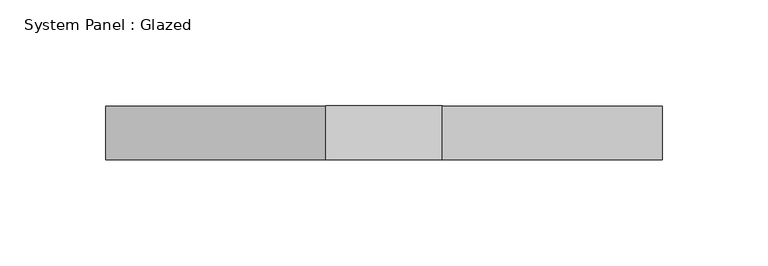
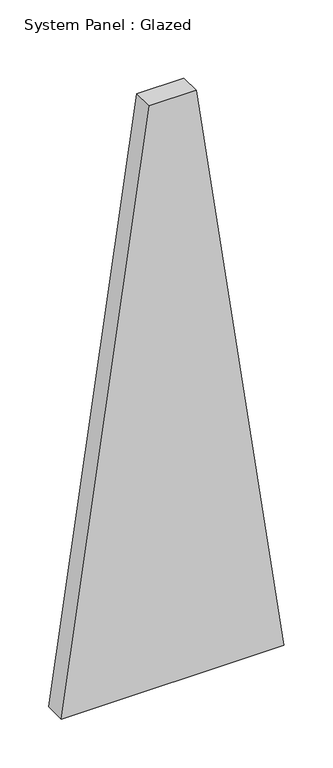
"""IFC4 building model written with IfcOpenShell, lengths in millimetres: plate geometry, System Panel : Glazed."""

import ifcopenshell
import ifcopenshell.guid

model = None  # the IFC model being written
_history = None  # IfcOwnerHistory: only IFC2X3 demands one
_inside = {}  # id of a spatial element -> (the spatial element, [elements in it])
_under = {}  # id of a project, library or spatial element -> (it, [spatial elements below it])
_declared = {}  # id of a project -> (the project, [libraries it declares])
_typed = {}  # id of a type object -> (the type object, [elements of that type])
_made_of = {}  # id of a material, layer set ... -> (it, [elements and type objects made of it])


def new_model(schema):
    """Start an empty IFC model of exactly this schema.

    Asked for "IFC4X3", IfcOpenShell would pick the latest addendum, in which some entities
    have other attributes; the version numbers below select the first issue.
    IFC2X3 requires an IfcOwnerHistory on every rooted entity: one is made here for all.
    """
    global model, _history
    if schema == "IFC4X3":
        model = ifcopenshell.file(schema_version=(4, 3, 0, 0))
    else:
        model = ifcopenshell.file(schema=schema)
    _inside.clear()
    _under.clear()
    _declared.clear()
    _typed.clear()
    _made_of.clear()
    _history = None
    if model.schema == "IFC2X3":
        org = make("IfcOrganization", Name="unknown")
        user = make(
            "IfcPersonAndOrganization",
            ThePerson=make("IfcPerson", FamilyName="unknown"),
            TheOrganization=org,
        )
        app = make(
            "IfcApplication",
            ApplicationDeveloper=org,
            Version="unknown",
            ApplicationFullName="unknown",
            ApplicationIdentifier="unknown",
        )
        _history = make(
            "IfcOwnerHistory",
            OwningUser=user,
            OwningApplication=app,
            ChangeAction="ADDED",
            CreationDate=0,
        )
    return model


def make(cls, **values):
    """One entity of the class cls with the attributes given. An attribute that is None is left unset."""
    return model.create_entity(
        cls, **{name: value for name, value in values.items() if value is not None}
    )


def rooted(cls, **values):
    """An entity with a GlobalId (a new one), such as an element, a storey or a relation."""
    return make(cls, GlobalId=ifcopenshell.guid.new(), OwnerHistory=_history, **values)


def si_unit(unit_type, name, prefix=None):
    """IfcSIUnit, for example si_unit("LENGTHUNIT", "METRE", prefix="MILLI")."""
    return make("IfcSIUnit", UnitType=unit_type, Prefix=prefix, Name=name)


def assignment(units):
    """IfcUnitAssignment: the units of a project."""
    return None if units is None else make("IfcUnitAssignment", Units=units)


def point(xyz):
    """IfcCartesianPoint."""
    return None if xyz is None else make("IfcCartesianPoint", Coordinates=xyz)


def direction(xyz):
    """IfcDirection."""
    return None if xyz is None else make("IfcDirection", DirectionRatios=xyz)


def frame(location, z_axis=None, x_axis=None):
    """IfcAxis2Placement3D, a coordinate frame: its origin and axes. An axis left out is left unset."""
    return make(
        "IfcAxis2Placement3D",
        Location=point(location),
        Axis=direction(z_axis),
        RefDirection=direction(x_axis),
    )


def origin():
    """The frame at (0, 0, 0) with its axes left unset."""
    return frame((0.0, 0.0, 0.0))


def place(relative_to, where):
    """IfcLocalPlacement: puts the frame where relative to a parent placement (None: the world)."""
    return make(
        "IfcLocalPlacement", PlacementRelTo=relative_to, RelativePlacement=where
    )


def context(
    kind, dimensions, precision=None, world=None, true_north=None, identifier=None
):
    """IfcGeometricRepresentationContext, for example the 3D "Model" context."""
    return make(
        "IfcGeometricRepresentationContext",
        ContextIdentifier=identifier,
        ContextType=kind,
        CoordinateSpaceDimension=dimensions,
        Precision=precision,
        WorldCoordinateSystem=world,
        TrueNorth=true_north,
    )


def project(units=None, contexts=None):
    """IfcProject with its units and contexts."""
    return rooted(
        "IfcProject",
        Name="project",
        RepresentationContexts=contexts,
        UnitsInContext=assignment(units),
    )


def spatial(cls, under=None, at=None, **own):
    """A site, building, storey or space (cls), placed at a placement, below another one or the project."""
    s = rooted(cls, ObjectPlacement=at, **own)
    if under is not None:
        _under.setdefault(under.id(), (under, []))[1].append(s)
    return s


def polyline(points):
    """IfcPolyline through the points."""
    return make("IfcPolyline", Points=[point(p) for p in points])


def outline(outer, holes=None, kind="AREA"):
    """IfcArbitraryClosedProfileDef: a profile drawn as a closed curve; with holes, ...WithVoids."""
    if holes is None:
        return make("IfcArbitraryClosedProfileDef", ProfileType=kind, OuterCurve=outer)
    return make(
        "IfcArbitraryProfileDefWithVoids",
        ProfileType=kind,
        OuterCurve=outer,
        InnerCurves=holes,
    )


def extrude(swept, where, along, depth):
    """IfcExtrudedAreaSolid: the profile swept, set in the frame where, extruded along a direction by depth."""
    return make(
        "IfcExtrudedAreaSolid",
        SweptArea=swept,
        Position=where,
        ExtrudedDirection=direction(along),
        Depth=depth,
    )


def shape(context_of_items, identifier, shape_type, items):
    """IfcShapeRepresentation: the items that make up one representation, for example the "Body"."""
    return make(
        "IfcShapeRepresentation",
        ContextOfItems=context_of_items,
        RepresentationIdentifier=identifier,
        RepresentationType=shape_type,
        Items=items,
    )


def source(mapping_origin, context_of_items, identifier, shape_type, items):
    """IfcRepresentationMap: a shape defined once, which mapped items show again and again."""
    return make(
        "IfcRepresentationMap",
        MappingOrigin=mapping_origin,
        MappedRepresentation=shape(context_of_items, identifier, shape_type, items),
    )


def transform(
    local_origin,
    x_axis=None,
    y_axis=None,
    z_axis=None,
    scale=None,
    scale2=None,
    scale3=None,
    uniform=True,
):
    """IfcCartesianTransformationOperator3D, or its non-uniform kind. x_axis, y_axis, z_axis: its Axis1, 2, 3."""
    if uniform:
        return make(
            "IfcCartesianTransformationOperator3D",
            Axis1=direction(x_axis),
            Axis2=direction(y_axis),
            LocalOrigin=point(local_origin),
            Scale=scale,
            Axis3=direction(z_axis),
        )
    return make(
        "IfcCartesianTransformationOperator3DnonUniform",
        Axis1=direction(x_axis),
        Axis2=direction(y_axis),
        LocalOrigin=point(local_origin),
        Scale=scale,
        Axis3=direction(z_axis),
        Scale2=scale2,
        Scale3=scale3,
    )


def mapped(mapping_source, mapping_target):
    """IfcMappedItem: shows the shape of a source again, moved by a transform."""
    return make(
        "IfcMappedItem", MappingSource=mapping_source, MappingTarget=mapping_target
    )


def made_of(thing, what):
    """Note that an element or type object is made of a material, layer set ...; save() writes the relation."""
    if what is not None:
        _made_of.setdefault(what.id(), (what, []))[1].append(thing)
    return thing


def element(
    cls,
    number,
    at=None,
    inside=None,
    cuts=None,
    type_object=None,
    material=None,
    context=None,
    identifier="Body",
    shape_type=None,
    held_by="IfcProductDefinitionShape",
    body=None,
    shapes=None,
    **own,
):
    """One element of the class cls, such as IfcWall. Its Tag is "e" and its number.

    at: its placement. inside: the storey or other place that contains it. cuts: it is an
    opening in that element (IfcRelVoidsElement). A single representation is given by context,
    identifier, shape_type and body (its items); several are given by shapes. held_by: the class
    of the entity that holds the representations. save() writes the other relations.
    """
    e = rooted(cls, Tag="e%d" % number, ObjectPlacement=at, **own)
    if body is not None:
        shapes = [shape(context, identifier, shape_type, body)]
    if shapes is not None:
        e.Representation = make(held_by, Representations=shapes)
    if inside is not None:
        _inside.setdefault(inside.id(), (inside, []))[1].append(e)
    if cuts is not None:
        rooted(
            "IfcRelVoidsElement", RelatingBuildingElement=cuts, RelatedOpeningElement=e
        )
    if type_object is not None:
        _typed.setdefault(type_object.id(), (type_object, []))[1].append(e)
    return made_of(e, material)


def aggregate(whole, parts):
    """IfcRelAggregates: a whole, such as a stair, and the parts it consists of."""
    return rooted("IfcRelAggregates", RelatingObject=whole, RelatedObjects=parts)


def save(model, path):
    """Write the relations noted so far, then the file.

    IfcRelAggregates (storeys below a building ...), IfcRelContainedInSpatialStructure (elements
    in a storey), IfcRelDefinesByType, IfcRelAssociatesMaterial and IfcRelDeclares: one each for
    every whole, place, type object, material and project.
    """
    for whole, parts in _under.values():
        aggregate(whole, parts)
    for where, things in _inside.values():
        rooted(
            "IfcRelContainedInSpatialStructure",
            RelatedElements=things,
            RelatingStructure=where,
        )
    for kind, things in _typed.values():
        rooted("IfcRelDefinesByType", RelatedObjects=things, RelatingType=kind)
    for what, things in _made_of.values():
        rooted("IfcRelAssociatesMaterial", RelatedObjects=things, RelatingMaterial=what)
    for by, libraries in _declared.values():
        rooted("IfcRelDeclares", RelatingContext=by, RelatedDefinitions=libraries)
    model.write(path)


def system_panel_glazed_1c764c03(model_context):
    return source(origin(), model_context, "Body", "SweptSolid", [
        extrude(outline(polyline([(0.0, -131.4003193), (0.0, 131.4003193), (728.9866785, 27.571564), (728.9866785, -27.571564), (0.0, -131.4003193)])), frame((0.0, 19.05, 0.0), z_axis=(0.0, 1.0, 0.0), x_axis=(0.0, 0.0, 1.0)), (0.0, 0.0, 1.0), 25.4),
    ])


if __name__ == "__main__":
    model = new_model("IFC4")
    model_context = context("Model", 3, world=origin())
    ifc_project = project(units=[si_unit("LENGTHUNIT", "METRE", prefix="MILLI")], contexts=[model_context])
    site = spatial("IfcSite", under=ifc_project)
    building = spatial("IfcBuilding", under=site)
    placement = place(None, origin())
    system_panel_glazed_shape = system_panel_glazed_1c764c03(model_context)
    element("IfcPlate", 1, ObjectType="System Panel : Glazed", at=placement, inside=building, context=model_context, shape_type="MappedRepresentation", body=[
        mapped(system_panel_glazed_shape, transform((0.0, 0.0, 0.0), x_axis=(1.0, 0.0, 0.0), y_axis=(0.0, 1.0, 0.0), z_axis=(0.0, 0.0, 1.0))),
    ])
    save(model, "model.ifc")
